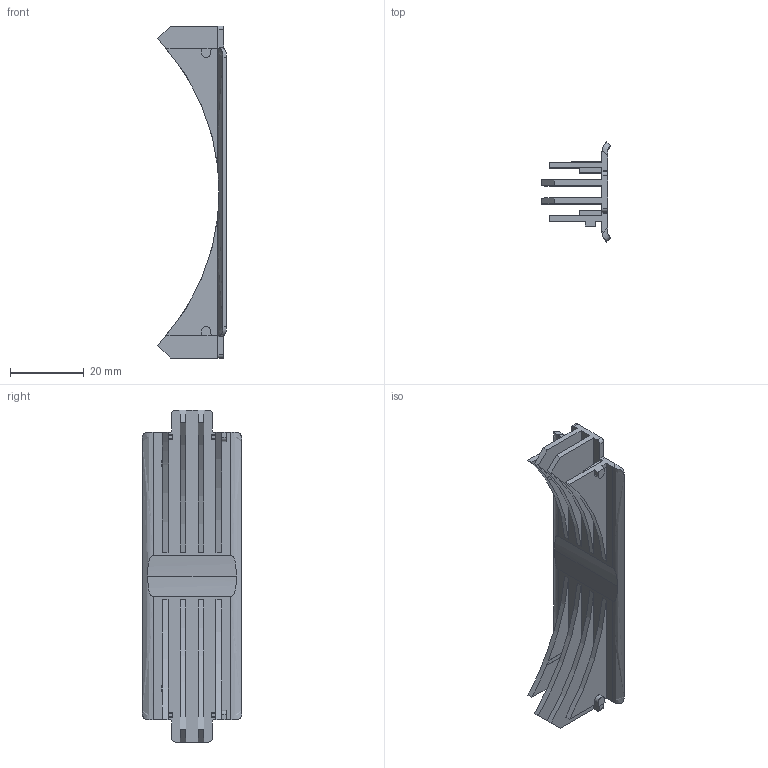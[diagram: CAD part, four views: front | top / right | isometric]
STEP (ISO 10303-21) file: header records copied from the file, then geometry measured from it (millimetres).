
FILE_DESCRIPTION (( 'STEP AP203' ), '1' );
FILE_NAME ('120 Glossy.STEP', '2025-02-24T02:14:23', ( '' ), ( '' ), 'SwSTEP 2.0', 'SolidWorks 2020', '' );
FILE_SCHEMA (( 'CONFIG_CONTROL_DESIGN' ));
Length unit declared in the file: millimetre
Products named in the file (1): 120 Glossy
Bounding box: 18.68 x 27 x 90 mm (x, y, z)
Volume: 5826.3 mm3; surface area: 8411.8 mm2
Topology: 1 solids, 1 shells, 103 faces, 316 edges, 213 vertices
Faces by surface type: plane 73, cylinder 22, bspline 8
Entity records: 4334 total; most frequent: CARTESIAN_POINT 1478, ORIENTED_EDGE 628, DIRECTION 516, EDGE_CURVE 314, VECTOR 240, LINE 240, VERTEX_POINT 213, AXIS2_PLACEMENT_3D 138
